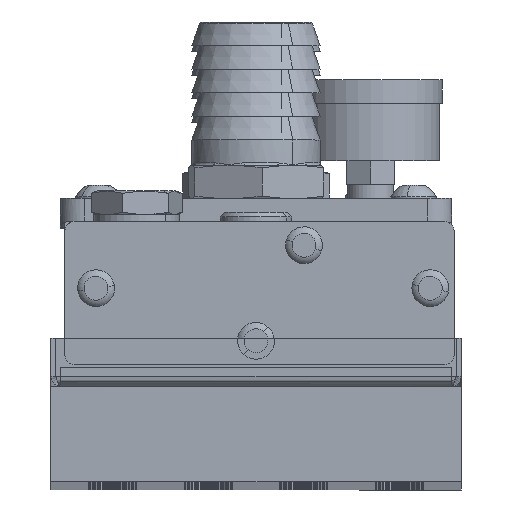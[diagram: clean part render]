
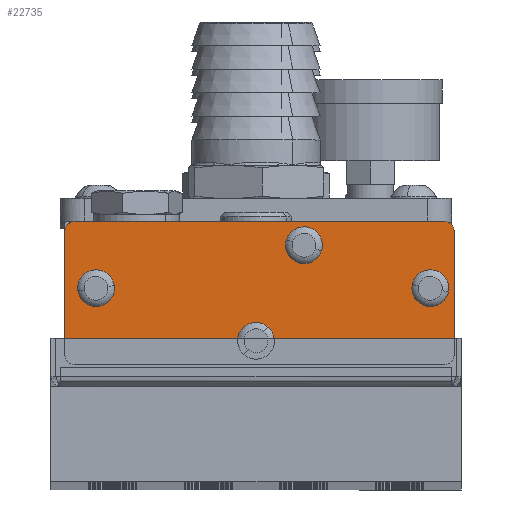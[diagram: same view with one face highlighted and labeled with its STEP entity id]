
A CAD part, top view. The second image highlights one B-rep face of the part: STEP entity #22735.
In plain terms, the highlighted planar face has unit normal (0, 0, 1).
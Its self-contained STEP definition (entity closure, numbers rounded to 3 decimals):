
#46 = AXIS2_PLACEMENT_3D ( 'NONE', #4305, #4306, #4307 ) ;
#590 = CARTESIAN_POINT ( 'NONE',  ( -174.511, -81.562, 467.817 ) ) ;
#591 = DIRECTION ( 'NONE',  ( 0., 0., -1. ) ) ;
#592 = DIRECTION ( 'NONE',  ( -1., 0., 0. ) ) ;
#688 = CARTESIAN_POINT ( 'NONE',  ( -130.961, -72.562, 467.817 ) ) ;
#690 = DIRECTION ( 'NONE',  ( 0., 0., -1. ) ) ;
#692 = DIRECTION ( 'NONE',  ( -1., 0., 0. ) ) ;
#736 = DIRECTION ( 'NONE',  ( -1., 0., 0. ) ) ;
#738 = CARTESIAN_POINT ( 'NONE',  ( -179.011, -67.562, 467.817 ) ) ;
#2003 = CARTESIAN_POINT ( 'NONE',  ( -179.011, -97.562, 467.817 ) ) ;
#4297 = PLANE ( 'NONE',  #46 ) ;
#4305 = CARTESIAN_POINT ( 'NONE',  ( -179.011, -69.562, 467.817 ) ) ;
#4306 = DIRECTION ( 'NONE',  ( 0., 0., -1. ) ) ;
#4307 = DIRECTION ( 'NONE',  ( -1., 0., 0. ) ) ;
#4891 = AXIS2_PLACEMENT_3D ( 'NONE', #590, #591, #592 ) ;
#4906 = AXIS2_PLACEMENT_3D ( 'NONE', #688, #690, #692 ) ;
#5051 = AXIS2_PLACEMENT_3D ( 'NONE', #5551, #5552, #5553 ) ;
#5053 = AXIS2_PLACEMENT_3D ( 'NONE', #5558, #5559, #5560 ) ;
#5056 = AXIS2_PLACEMENT_3D ( 'NONE', #5570, #5571, #5572 ) ;
#5206 = AXIS2_PLACEMENT_3D ( 'NONE', #6366, #6368, #6369 ) ;
#5324 = AXIS2_PLACEMENT_3D ( 'NONE', #39661, #39662, #39663 ) ;
#5337 = AXIS2_PLACEMENT_3D ( 'NONE', #39737, #39738, #39739 ) ;
#5407 = AXIS2_PLACEMENT_3D ( 'NONE', #40259, #40260, #40262 ) ;
#5410 = AXIS2_PLACEMENT_3D ( 'NONE', #40280, #40282, #40284 ) ;
#5414 = AXIS2_PLACEMENT_3D ( 'NONE', #40310, #40311, #40313 ) ;
#5418 = AXIS2_PLACEMENT_3D ( 'NONE', #40339, #40341, #40342 ) ;
#5545 = DIRECTION ( 'NONE',  ( 1., 0., 0. ) ) ;
#5551 = CARTESIAN_POINT ( 'NONE',  ( -141.011, -92.562, 467.817 ) ) ;
#5552 = DIRECTION ( 'NONE',  ( 0., 0., -1. ) ) ;
#5553 = DIRECTION ( 'NONE',  ( -1., 0., 0. ) ) ;
#5558 = CARTESIAN_POINT ( 'NONE',  ( -104.511, -81.562, 467.817 ) ) ;
#5559 = DIRECTION ( 'NONE',  ( 0., 0., -1. ) ) ;
#5560 = DIRECTION ( 'NONE',  ( -1., 0., 0. ) ) ;
#5570 = CARTESIAN_POINT ( 'NONE',  ( -101.511, -95.562, 467.817 ) ) ;
#5571 = DIRECTION ( 'NONE',  ( 0., 0., 1. ) ) ;
#5572 = DIRECTION ( 'NONE',  ( 1., 0., 0. ) ) ;
#6366 = CARTESIAN_POINT ( 'NONE',  ( -101.511, -69.562, 467.817 ) ) ;
#6368 = DIRECTION ( 'NONE',  ( 0., 0., 1. ) ) ;
#6369 = DIRECTION ( 'NONE',  ( 1., 0., 0. ) ) ;
#6406 = DIRECTION ( 'NONE',  ( 0., 1., 0. ) ) ;
#6458 = CARTESIAN_POINT ( 'NONE',  ( -99.511, -69.562, 467.817 ) ) ;
#10618 = EDGE_LOOP ( 'NONE', ( #39937, #39938 ) ) ;
#10667 = EDGE_LOOP ( 'NONE', ( #39940, #39942 ) ) ;
#10786 = EDGE_LOOP ( 'NONE', ( #39944, #39945, #39947, #39950, #39952, #39953, #39954, #39955 ) ) ;
#12100 = CARTESIAN_POINT ( 'NONE',  ( -179.011, -67.562, 467.817 ) ) ;
#12102 = CARTESIAN_POINT ( 'NONE',  ( -179.011, -97.562, 467.817 ) ) ;
#12107 = CARTESIAN_POINT ( 'NONE',  ( -181.011, -95.562, 467.817 ) ) ;
#12108 = CARTESIAN_POINT ( 'NONE',  ( -181.011, -69.562, 467.817 ) ) ;
#12112 = CARTESIAN_POINT ( 'NONE',  ( -101.511, -97.562, 467.817 ) ) ;
#12113 = CARTESIAN_POINT ( 'NONE',  ( -99.511, -95.562, 467.817 ) ) ;
#12114 = CARTESIAN_POINT ( 'NONE',  ( -99.511, -69.562, 467.817 ) ) ;
#12115 = CARTESIAN_POINT ( 'NONE',  ( -101.511, -67.562, 467.817 ) ) ;
#13597 = VERTEX_POINT ( 'NONE', #15049 ) ;
#13598 = VERTEX_POINT ( 'NONE', #14792 ) ;
#13606 = VERTEX_POINT ( 'NONE', #14849 ) ;
#13608 = VERTEX_POINT ( 'NONE', #14851 ) ;
#13614 = VERTEX_POINT ( 'NONE', #14866 ) ;
#13617 = VERTEX_POINT ( 'NONE', #15058 ) ;
#13619 = VERTEX_POINT ( 'NONE', #14871 ) ;
#13622 = VERTEX_POINT ( 'NONE', #14869 ) ;
#14792 = CARTESIAN_POINT ( 'NONE',  ( -143.583, -95.436, 467.817 ) ) ;
#14849 = CARTESIAN_POINT ( 'NONE',  ( -100.736, -82.352, 467.817 ) ) ;
#14851 = CARTESIAN_POINT ( 'NONE',  ( -108.286, -80.771, 467.817 ) ) ;
#14866 = CARTESIAN_POINT ( 'NONE',  ( -127.278, -73.703, 467.817 ) ) ;
#14869 = CARTESIAN_POINT ( 'NONE',  ( -178.33, -82.106, 467.817 ) ) ;
#14871 = CARTESIAN_POINT ( 'NONE',  ( -170.693, -81.017, 467.817 ) ) ;
#15049 = CARTESIAN_POINT ( 'NONE',  ( -138.44, -89.688, 467.817 ) ) ;
#15058 = CARTESIAN_POINT ( 'NONE',  ( -134.645, -71.42, 467.817 ) ) ;
#15216 = FACE_BOUND ( 'NONE', #21894, .T. ) ;
#15217 = FACE_BOUND ( 'NONE', #10618, .T. ) ;
#15218 = FACE_OUTER_BOUND ( 'NONE', #10786, .T. ) ;
#15219 = FACE_BOUND ( 'NONE', #10667, .T. ) ;
#15220 = FACE_BOUND ( 'NONE', #21878, .T. ) ;
#16640 = CIRCLE ( 'NONE', #4891, 3.857 ) ;
#16700 = CIRCLE ( 'NONE', #4906, 3.857 ) ;
#16716 = LINE ( 'NONE', #738, #16719 ) ;
#16719 = VECTOR ( 'NONE', #736, 1000. ) ;
#17048 = LINE ( 'NONE', #2003, #17051 ) ;
#17050 = CIRCLE ( 'NONE', #5051, 3.857 ) ;
#17051 = VECTOR ( 'NONE', #5545, 1000. ) ;
#17052 = CIRCLE ( 'NONE', #5053, 3.857 ) ;
#17060 = CIRCLE ( 'NONE', #5056, 2. ) ;
#21878 = EDGE_LOOP ( 'NONE', ( #39933, #39935 ) ) ;
#21894 = EDGE_LOOP ( 'NONE', ( #39930, #39931 ) ) ;
#22735 = ADVANCED_FACE ( 'NONE', ( #15216, #15220, #15217, #15219, #15218 ), #4297, .F. ) ;
#23379 = EDGE_CURVE ( 'NONE', #13622, #13619, #16640, .T. ) ;
#23577 = EDGE_CURVE ( 'NONE', #13617, #13614, #16700, .T. ) ;
#23612 = EDGE_CURVE ( 'NONE', #40200, #40172, #16716, .T. ) ;
#24038 = EDGE_CURVE ( 'NONE', #40176, #40193, #17048, .T. ) ;
#24041 = EDGE_CURVE ( 'NONE', #13598, #13597, #17050, .T. ) ;
#24044 = EDGE_CURVE ( 'NONE', #13608, #13606, #17052, .T. ) ;
#24050 = EDGE_CURVE ( 'NONE', #40193, #40195, #17060, .T. ) ;
#24491 = EDGE_CURVE ( 'NONE', #40198, #40200, #33049, .T. ) ;
#24507 = EDGE_CURVE ( 'NONE', #40195, #40198, #33066, .T. ) ;
#24642 = EDGE_CURVE ( 'NONE', #40187, #40184, #33219, .T. ) ;
#24687 = EDGE_CURVE ( 'NONE', #40184, #40176, #33286, .T. ) ;
#24712 = EDGE_CURVE ( 'NONE', #40172, #40187, #33317, .T. ) ;
#24809 = EDGE_CURVE ( 'NONE', #13597, #13598, #33430, .T. ) ;
#24812 = EDGE_CURVE ( 'NONE', #13606, #13608, #33433, .T. ) ;
#24816 = EDGE_CURVE ( 'NONE', #13614, #13617, #33437, .T. ) ;
#24820 = EDGE_CURVE ( 'NONE', #13619, #13622, #33441, .T. ) ;
#33049 = CIRCLE ( 'NONE', #5206, 2. ) ;
#33066 = LINE ( 'NONE', #6458, #33069 ) ;
#33069 = VECTOR ( 'NONE', #6406, 1000. ) ;
#33219 = LINE ( 'NONE', #39547, #33222 ) ;
#33222 = VECTOR ( 'NONE', #39548, 1000. ) ;
#33286 = CIRCLE ( 'NONE', #5324, 2. ) ;
#33317 = CIRCLE ( 'NONE', #5337, 2. ) ;
#33430 = CIRCLE ( 'NONE', #5407, 3.857 ) ;
#33433 = CIRCLE ( 'NONE', #5410, 3.857 ) ;
#33437 = CIRCLE ( 'NONE', #5414, 3.857 ) ;
#33441 = CIRCLE ( 'NONE', #5418, 3.857 ) ;
#39547 = CARTESIAN_POINT ( 'NONE',  ( -181.011, -69.562, 467.817 ) ) ;
#39548 = DIRECTION ( 'NONE',  ( 0., -1., 0. ) ) ;
#39661 = CARTESIAN_POINT ( 'NONE',  ( -179.011, -95.562, 467.817 ) ) ;
#39662 = DIRECTION ( 'NONE',  ( 0., 0., 1. ) ) ;
#39663 = DIRECTION ( 'NONE',  ( -1., 0., 0. ) ) ;
#39737 = CARTESIAN_POINT ( 'NONE',  ( -179.011, -69.562, 467.817 ) ) ;
#39738 = DIRECTION ( 'NONE',  ( 0., 0., 1. ) ) ;
#39739 = DIRECTION ( 'NONE',  ( -1., 0., 0. ) ) ;
#39930 = ORIENTED_EDGE ( 'NONE', *, *, #24820, .T. ) ;
#39931 = ORIENTED_EDGE ( 'NONE', *, *, #23379, .T. ) ;
#39933 = ORIENTED_EDGE ( 'NONE', *, *, #24816, .T. ) ;
#39935 = ORIENTED_EDGE ( 'NONE', *, *, #23577, .T. ) ;
#39937 = ORIENTED_EDGE ( 'NONE', *, *, #24812, .T. ) ;
#39938 = ORIENTED_EDGE ( 'NONE', *, *, #24044, .T. ) ;
#39940 = ORIENTED_EDGE ( 'NONE', *, *, #24809, .T. ) ;
#39942 = ORIENTED_EDGE ( 'NONE', *, *, #24041, .T. ) ;
#39944 = ORIENTED_EDGE ( 'NONE', *, *, #24712, .T. ) ;
#39945 = ORIENTED_EDGE ( 'NONE', *, *, #24642, .T. ) ;
#39947 = ORIENTED_EDGE ( 'NONE', *, *, #24687, .T. ) ;
#39950 = ORIENTED_EDGE ( 'NONE', *, *, #24038, .T. ) ;
#39952 = ORIENTED_EDGE ( 'NONE', *, *, #24050, .T. ) ;
#39953 = ORIENTED_EDGE ( 'NONE', *, *, #24507, .T. ) ;
#39954 = ORIENTED_EDGE ( 'NONE', *, *, #24491, .T. ) ;
#39955 = ORIENTED_EDGE ( 'NONE', *, *, #23612, .T. ) ;
#40172 = VERTEX_POINT ( 'NONE', #12100 ) ;
#40176 = VERTEX_POINT ( 'NONE', #12102 ) ;
#40184 = VERTEX_POINT ( 'NONE', #12107 ) ;
#40187 = VERTEX_POINT ( 'NONE', #12108 ) ;
#40193 = VERTEX_POINT ( 'NONE', #12112 ) ;
#40195 = VERTEX_POINT ( 'NONE', #12113 ) ;
#40198 = VERTEX_POINT ( 'NONE', #12114 ) ;
#40200 = VERTEX_POINT ( 'NONE', #12115 ) ;
#40259 = CARTESIAN_POINT ( 'NONE',  ( -141.011, -92.562, 467.817 ) ) ;
#40260 = DIRECTION ( 'NONE',  ( 0., 0., -1. ) ) ;
#40262 = DIRECTION ( 'NONE',  ( -1., 0., 0. ) ) ;
#40280 = CARTESIAN_POINT ( 'NONE',  ( -104.511, -81.562, 467.817 ) ) ;
#40282 = DIRECTION ( 'NONE',  ( 0., 0., -1. ) ) ;
#40284 = DIRECTION ( 'NONE',  ( -1., 0., 0. ) ) ;
#40310 = CARTESIAN_POINT ( 'NONE',  ( -130.961, -72.562, 467.817 ) ) ;
#40311 = DIRECTION ( 'NONE',  ( 0., 0., -1. ) ) ;
#40313 = DIRECTION ( 'NONE',  ( -1., 0., 0. ) ) ;
#40339 = CARTESIAN_POINT ( 'NONE',  ( -174.511, -81.562, 467.817 ) ) ;
#40341 = DIRECTION ( 'NONE',  ( 0., 0., -1. ) ) ;
#40342 = DIRECTION ( 'NONE',  ( -1., 0., 0. ) ) ;
